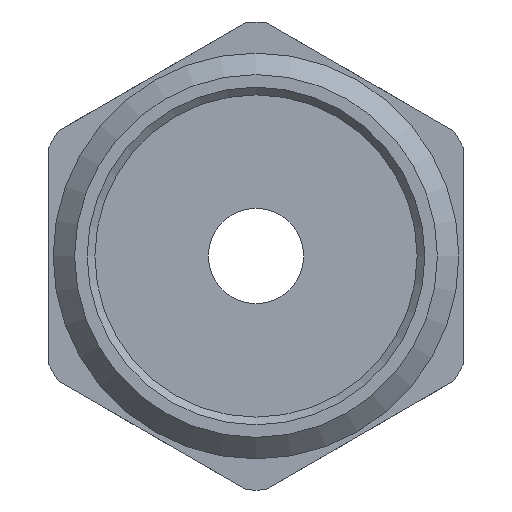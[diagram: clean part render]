
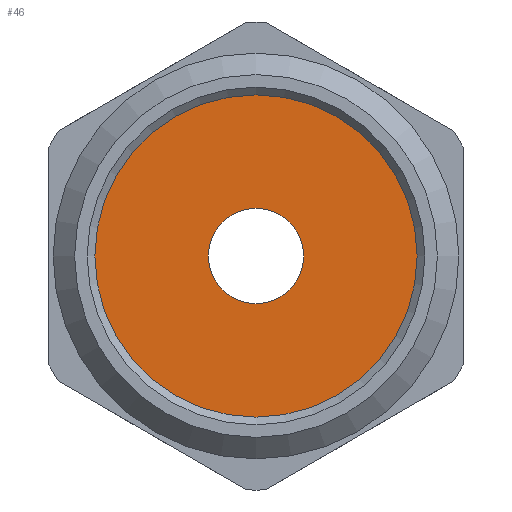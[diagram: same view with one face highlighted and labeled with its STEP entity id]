
A CAD part, front view. The second image highlights one B-rep face of the part: STEP entity #46.
In plain terms, the highlighted planar face has unit normal (0, -1, 0).
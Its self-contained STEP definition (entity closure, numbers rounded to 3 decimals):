
#46=ADVANCED_FACE('',(#96,#98),#100,.T.);
#96=FACE_BOUND('',#97,.T.);
#97=EDGE_LOOP('',(#356));
#98=FACE_BOUND('',#99,.T.);
#99=EDGE_LOOP('',(#357));
#100=PLANE('',#101);
#101=AXIS2_PLACEMENT_3D('',#102,#103,#104);
#102=CARTESIAN_POINT('',(0.,-2.,0.));
#103=DIRECTION('',(0.,-1.,0.));
#104=DIRECTION('',(1.,0.,0.));
#356=ORIENTED_EDGE('',*,*,#498,.T.);
#357=ORIENTED_EDGE('',*,*,#497,.F.);
#497=EDGE_CURVE('',#571,#571,#572,.F.);
#498=EDGE_CURVE('',#573,#573,#574,.T.);
#571=VERTEX_POINT('',#704);
#572=CIRCLE('',#705,3.1);
#573=VERTEX_POINT('',#709);
#574=CIRCLE('',#710,10.5);
#704=CARTESIAN_POINT('',(-3.1,-2.,0.));
#705=AXIS2_PLACEMENT_3D('',#706,#707,#708);
#706=CARTESIAN_POINT('',(0.,-2.,0.));
#707=DIRECTION('',(0.,1.,0.));
#708=DIRECTION('',(-1.,0.,0.));
#709=CARTESIAN_POINT('',(10.5,-2.,0.));
#710=AXIS2_PLACEMENT_3D('',#711,#712,#713);
#711=CARTESIAN_POINT('',(0.,-2.,0.));
#712=DIRECTION('',(0.,-1.,0.));
#713=DIRECTION('',(1.,0.,0.));
